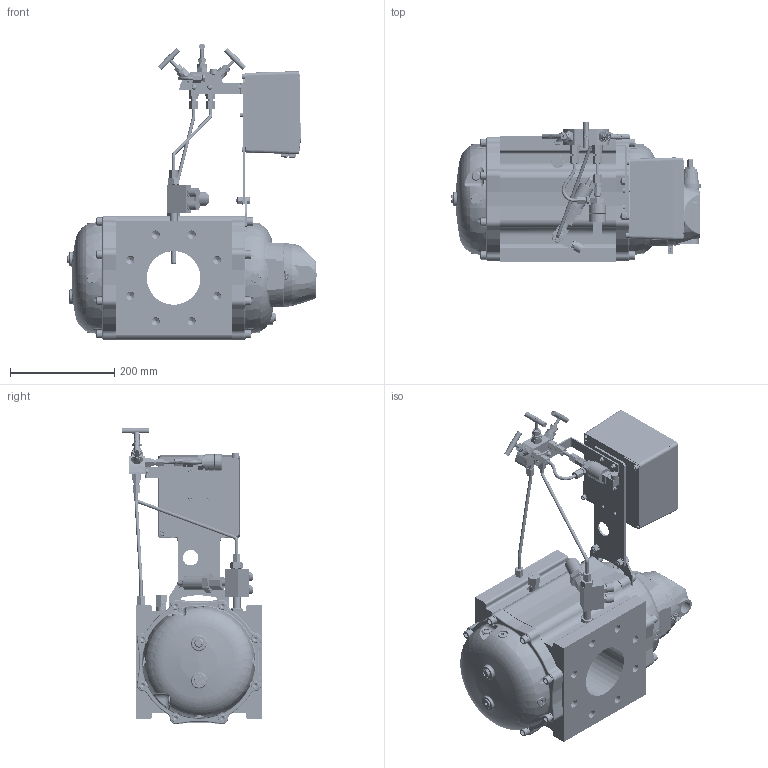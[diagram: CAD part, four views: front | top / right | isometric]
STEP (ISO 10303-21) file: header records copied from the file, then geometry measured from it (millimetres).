
FILE_DESCRIPTION(('STEP AP203'), '1');
FILE_NAME('楥-2230-G160-100', '', ('UNSPECIFIED'), ('UNSPECIFIED'), 'C3D Converter', 'C3D Toolkit', '');
FILE_SCHEMA(('CONFIG_CONTROL_DESIGN'));
Length unit declared in the file: millimetre
Bounding box: 478.5 x 267.75 x 568.35 mm (x, y, z)
Volume: 16772608.8 mm3; surface area: 999364.2 mm2
Topology: 5 solids, 8 shells, 10475 faces, 29200 edges, 19529 vertices
Faces by surface type: plane 5241, extrusion 2990, cylinder 1589, cone 276, torus 221, bspline 143, sphere 15
Full cylindrical faces by diameter (mm): 1 x23, 1.5 x1, 2 x11, 2.2 x1, 2.5 x4, 3 x17, 3.5 x4, 4 x29, 4.4 x1, 5 x5, 5.4 x1, 5.5 x5, 6 x13, 6.381 x1, 6.5 x9, 7 x16, 7.4 x4, 7.5 x7, 8 x5, 8.466 x1, 8.5 x5, 9.4 x9, 9.526 x2, 9.65 x1, 10 x21, 11 x7, 11.002 x1, 12 x17, 13.134 x3, 13.835 x16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
Entity records: 494495 total; most frequent: CARTESIAN_POINT 158214, ORIENTED_EDGE 55768, DIRECTION 41813, EDGE_CURVE 28484, VERTEX_POINT 19448, VECTOR 19149, LINE 16159, EDGE_LOOP 12069
